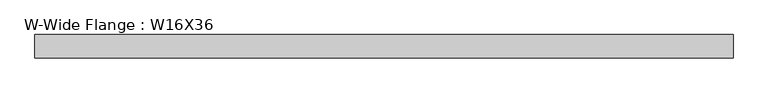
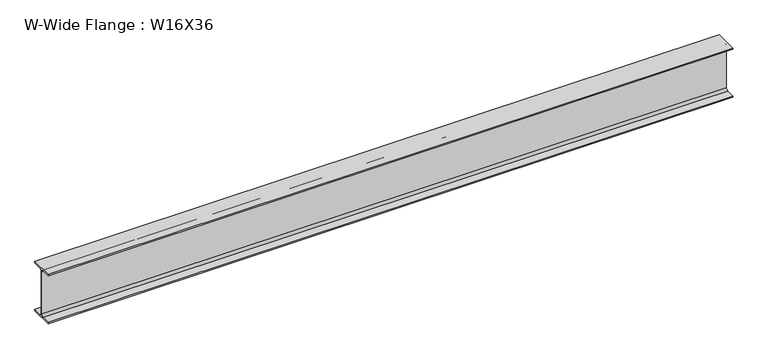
"""IFC4 building model written with IfcOpenShell, lengths in millimetres: beam geometry, W-Wide Flange : W16X36."""

from ifc_helpers import new_model, si_unit, point, frame, frame_2d, origin, place, context, project, spatial, polyline, circle_curve, trimmed, segment, composite_curve, outline, extrude, source, transform, mapped, element, save


def w_wide_flange_w16x36_c4811cc5(model_context):
    return source(origin(), model_context, "Body", "SweptSolid", [
        extrude(outline(composite_curve([segment(polyline([(88.773, -191.008), (88.773, -201.93), (-88.773, -201.93), (-88.773, -191.008), (-21.3995, -191.008)]), True, "CONTINUOUS"), segment(trimmed(circle_curve(frame_2d((-21.3995, -173.355)), 17.653), [point((-21.3995, -191.008))], [point((-3.7465, -173.355))], True, "CARTESIAN"), True, "CONTINUOUS"), segment(polyline([(-3.7465, -173.355), (-3.7465, 173.355)]), True, "CONTINUOUS"), segment(trimmed(circle_curve(frame_2d((-21.3995, 173.355)), 17.653), [point((-3.7465, 173.355))], [point((-21.3995, 191.008))], True, "CARTESIAN"), True, "CONTINUOUS"), segment(polyline([(-21.3995, 191.008), (-88.773, 191.008), (-88.773, 201.93), (88.773, 201.93), (88.773, 191.008), (21.3995, 191.008)]), True, "CONTINUOUS"), segment(trimmed(circle_curve(frame_2d((21.3995, 173.355)), 17.653), [point((21.3995, 191.008))], [point((3.7465, 173.355))], True, "CARTESIAN"), True, "CONTINUOUS"), segment(polyline([(3.7465, 173.355), (3.7465, -173.355)]), True, "CONTINUOUS"), segment(trimmed(circle_curve(frame_2d((21.3995, -173.355)), 17.653), [point((3.7465, -173.355))], [point((21.3995, -191.008))], True, "CARTESIAN"), True, "CONTINUOUS"), segment(polyline([(21.3995, -191.008), (88.773, -191.008)]), True, "CONTINUOUS")], self_intersect=False)), frame((-2654.427, 0.0, 0.0), z_axis=(1.0, 0.0, 0.0), x_axis=(0.0, 1.0, 0.0)), (0.0, 0.0, 1.0), 5308.854),
    ])


if __name__ == "__main__":
    model = new_model("IFC4")
    model_context = context("Model", 3, world=origin())
    ifc_project = project(units=[si_unit("LENGTHUNIT", "METRE", prefix="MILLI")], contexts=[model_context])
    site = spatial("IfcSite", under=ifc_project)
    building = spatial("IfcBuilding", under=site)
    placement = place(None, origin())
    w_wide_flange_w16x36_shape = w_wide_flange_w16x36_c4811cc5(model_context)
    element("IfcBeam", 1, ObjectType="W-Wide Flange : W16X36", at=placement, inside=building, context=model_context, shape_type="MappedRepresentation", body=[
        mapped(w_wide_flange_w16x36_shape, transform((0.0, 0.0, 0.0), x_axis=(1.0, 0.0, 0.0), y_axis=(0.0, 1.0, 0.0), z_axis=(0.0, 0.0, 1.0))),
    ])
    save(model, "model.ifc")
